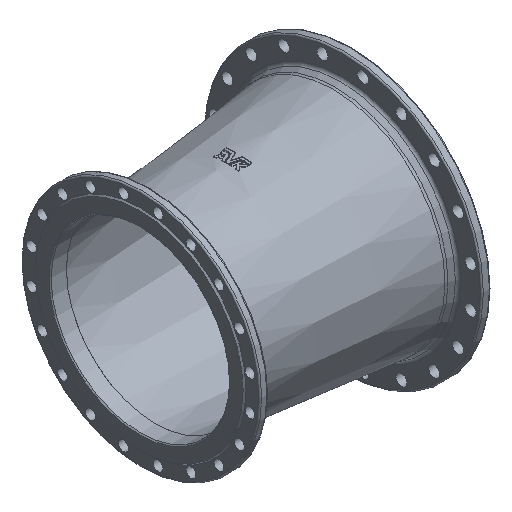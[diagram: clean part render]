
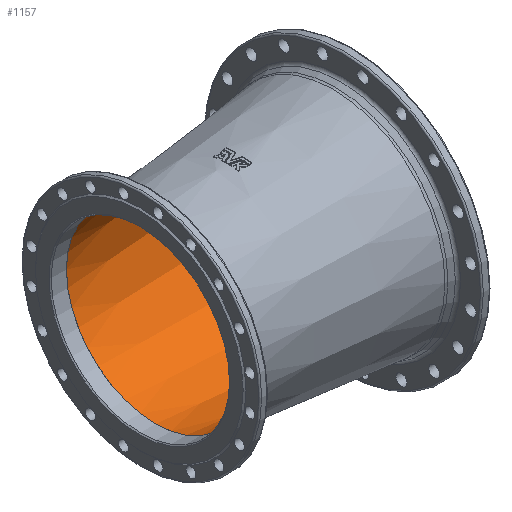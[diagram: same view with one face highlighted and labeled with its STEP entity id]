
A CAD part, isometric view. The second image highlights one B-rep face of the part: STEP entity #1157.
In plain terms, the highlighted conical face has half-angle 5.696 degrees and reference radius 250 mm.
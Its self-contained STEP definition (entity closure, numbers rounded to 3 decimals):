
#29 = CIRCLE ( 'NONE', #1126, 250.01 ) ;
#44 = DIRECTION ( 'NONE',  ( -1., 0., 0. ) ) ;
#60 = DIRECTION ( 'NONE',  ( 0., 0., -1. ) ) ;
#599 = FACE_BOUND ( 'NONE', #3148, .T. ) ;
#734 = EDGE_LOOP ( 'NONE', ( #3361 ) ) ;
#839 = DIRECTION ( 'NONE',  ( 0., 0., 1. ) ) ;
#1126 = AXIS2_PLACEMENT_3D ( 'NONE', #2924, #44, #839 ) ;
#1157 = ADVANCED_FACE ( 'NONE', ( #2465, #599 ), #1623, .F. ) ;
#1274 = EDGE_CURVE ( 'NONE', #1821, #1821, #3053, .T. ) ;
#1473 = VERTEX_POINT ( 'NONE', #2576 ) ;
#1533 = DIRECTION ( 'NONE',  ( 1., 0., 0. ) ) ;
#1623 = CONICAL_SURFACE ( 'NONE', #2441, 250., 0.099 ) ;
#1643 = CARTESIAN_POINT ( 'NONE',  ( 45.673, 0., 0. ) ) ;
#1731 = DIRECTION ( 'NONE',  ( 0., 0., -1. ) ) ;
#1821 = VERTEX_POINT ( 'NONE', #2871 ) ;
#2087 = EDGE_CURVE ( 'NONE', #1473, #1473, #29, .T. ) ;
#2284 = AXIS2_PLACEMENT_3D ( 'NONE', #3059, #1533, #1731 ) ;
#2441 = AXIS2_PLACEMENT_3D ( 'NONE', #1643, #2710, #60 ) ;
#2465 = FACE_OUTER_BOUND ( 'NONE', #734, .T. ) ;
#2576 = CARTESIAN_POINT ( 'NONE',  ( 45.772, 0., 250.01 ) ) ;
#2710 = DIRECTION ( 'NONE',  ( 1., 0., 0. ) ) ;
#2724 = ORIENTED_EDGE ( 'NONE', *, *, #2087, .T. ) ;
#2871 = CARTESIAN_POINT ( 'NONE',  ( 546.881, 0., -299.99 ) ) ;
#2924 = CARTESIAN_POINT ( 'NONE',  ( 45.772, 0., 0. ) ) ;
#3053 = CIRCLE ( 'NONE', #2284, 299.99 ) ;
#3059 = CARTESIAN_POINT ( 'NONE',  ( 546.881, 0., 0. ) ) ;
#3148 = EDGE_LOOP ( 'NONE', ( #2724 ) ) ;
#3361 = ORIENTED_EDGE ( 'NONE', *, *, #1274, .T. ) ;
